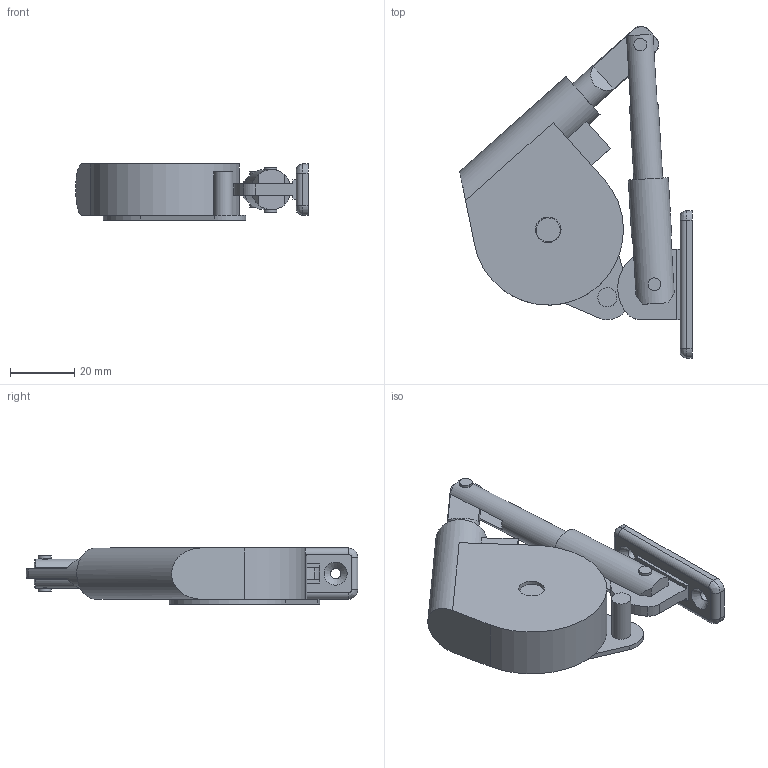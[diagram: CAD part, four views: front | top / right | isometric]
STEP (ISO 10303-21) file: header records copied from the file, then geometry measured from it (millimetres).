
FILE_DESCRIPTION(/* description */ (''),/* implementation_level */ '2;1');
FILE_NAME(/* name */ 'D:\$Workingspace\Designs\Katalog\Cadsoft\Akcesoria\PD-MDLIFT-P1(2)-D\PD-MDLIFT-P1-D-PZ.stp',/* time_stamp */ '2021-01-15T13:01:31+01:00',/* author */ ('tomaszw'),/* organization */ (''),/* preprocessor_version */ 'ST-DEVELOPER v18.1',/* originating_system */ 'Autodesk Inventor 2020',/* authorisation */ '');
FILE_SCHEMA (('AUTOMOTIVE_DESIGN { 1 0 10303 214 3 1 1 }'));
Length unit declared in the file: millimetre
Products named in the file (9): PD-MDLIFT-P1-D; PD-MDLIFT-P1(2)-D_1; PD-MDLIFT-P1(2)-D_5; PD-MDLIFT-P1-D_2; PD-MDLIFT-P1-D_3; PD-MDLIFT-P1(2)-D_4; PD-MDLIFT-P1(2)-D_pin2; PD-MDLIFT-P1(2)-D_pin1; PD-MDLIFT-P1(2)-D_6
Assembly tree (8 placements, depth 2):
  PD-MDLIFT-P1-D
    PD-MDLIFT-P1(2)-D_1
    PD-MDLIFT-P1(2)-D_5
    PD-MDLIFT-P1-D_2
    PD-MDLIFT-P1-D_3
    PD-MDLIFT-P1(2)-D_4
    PD-MDLIFT-P1(2)-D_pin2
    PD-MDLIFT-P1(2)-D_pin1
    PD-MDLIFT-P1(2)-D_6
Bounding box: 72.65 x 103.69 x 17.5 mm (x, y, z)
Volume: 50663.9 mm3; surface area: 19261.3 mm2
Topology: 8 solids, 8 shells, 105 faces, 250 edges, 166 vertices
Faces by surface type: plane 59, cylinder 38, bspline 6, cone 2
Full cylindrical faces by diameter (mm): 2 x8, 3.2 x2, 4 x4, 5 x4, 6 x1, 7.5 x1, 8 x1, 9 x1, 10 x1, 12.5 x1, 16 x1
Entity records: 3738 total; most frequent: CARTESIAN_POINT 780, DIRECTION 574, ORIENTED_EDGE 500, EDGE_CURVE 250, AXIS2_PLACEMENT_3D 222, VERTEX_POINT 166, EDGE_LOOP 136, LINE 130
